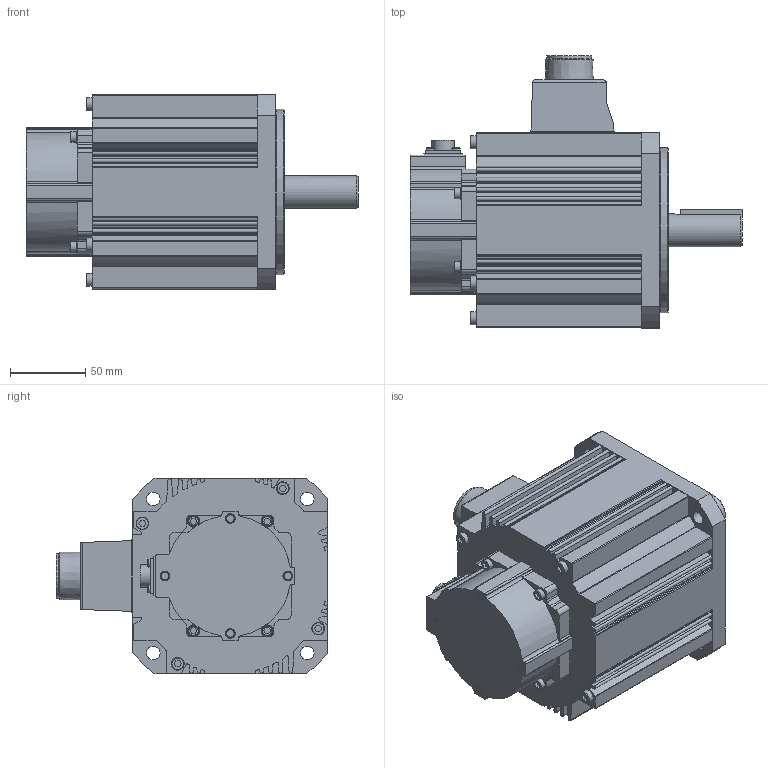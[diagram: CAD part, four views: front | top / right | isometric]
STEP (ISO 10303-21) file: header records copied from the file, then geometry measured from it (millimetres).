
FILE_DESCRIPTION( ( 'STEP AP0' ), '1' );
FILE_NAME( '//expscmdclustefs.cadenas.external/client_exchange/iodir/jobs/output/wkb64902457_no0/STEP/MDME102G1H_2_03.stp', ' ', ( ' ' ), ( ' ' ), 'PSStep 15.0.47', 'PARTsolutions', ' ' );
FILE_SCHEMA( ( 'CONFIG_CONTROL_DESIGN' ) );
Length unit declared in the file: millimetre
Products named in the file (1): HI_MDME102G1H
Bounding box: 221 x 181 x 130 mm (x, y, z)
Volume: 2187691 mm3; surface area: 148130.7 mm2
Topology: 1 solids, 1 shells, 544 faces, 1436 edges, 942 vertices
Faces by surface type: plane 281, cylinder 224, cone 18, torus 17, sphere 4
Full cylindrical faces by diameter (mm): 2.459 x1, 5.5 x4, 6.5 x4, 7 x4, 8.5 x4, 9 x4, 10.1 x4, 10.5 x4, 14.8 x1, 22 x1, 29.74 x1, 34 x1, 38 x1, 45 x1, 102 x1, 110 x1
Entity records: 16723 total; most frequent: CARTESIAN_POINT 3121, DIRECTION 2901, ORIENTED_EDGE 2708, EDGE_CURVE 1354, AXIS2_PLACEMENT_3D 1037, VERTEX_POINT 935, LINE 827, VECTOR 827
